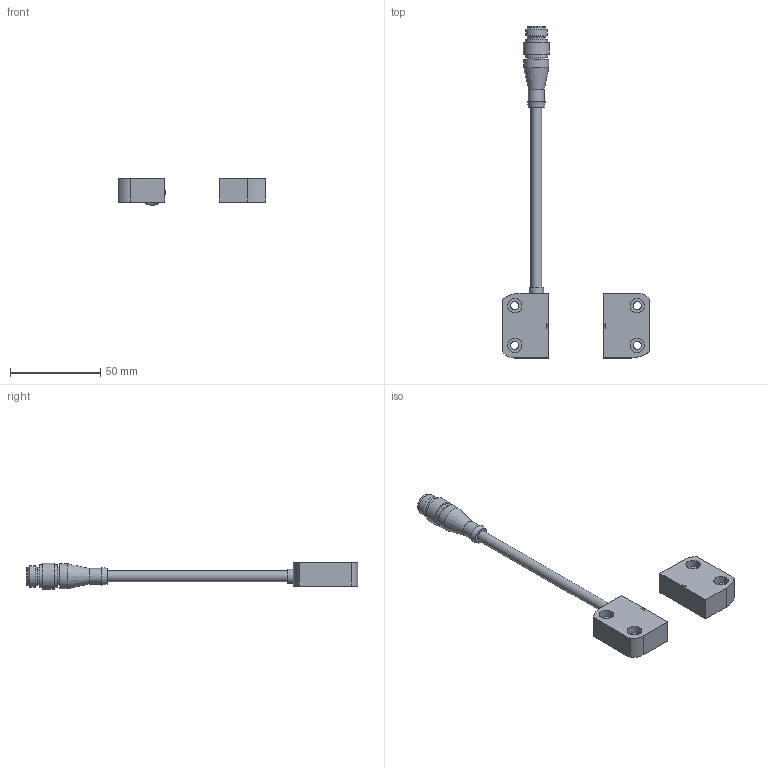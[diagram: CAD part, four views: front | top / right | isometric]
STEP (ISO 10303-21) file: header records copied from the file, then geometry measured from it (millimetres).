
FILE_DESCRIPTION( ( 'STEP AP203' ), '1' );
FILE_NAME( 'p:/temp/worker_14/temp/exporttempdir_1100_527_dde1I/format_2/MN207S.stp', '2021-05-17T06:58:02', ( 'License CC BY-ND 4.0' ), ( 'CADENAS' ), ' ', 'PARTsolutions', ' ' );
FILE_SCHEMA( ( 'CONFIG_CONTROL_DESIGN' ) );
Length unit declared in the file: millimetre
Products named in the file (3): MN207S; _MN200S_p1_P1; _MN200S_p2_P2
Assembly tree (2 placements, depth 2):
  MN207S
    _MN200S_p1_P1
    _MN200S_p2_P2
Bounding box: 82 x 184.4 x 14.85 mm (x, y, z)
Volume: 29875.1 mm3; surface area: 11805.7 mm2
Topology: 2 solids, 2 shells, 66 faces, 132 edges, 86 vertices
Faces by surface type: plane 37, cylinder 25, cone 4
Full cylindrical faces by diameter (mm): 4.5 x4, 6 x1, 8 x5, 8.3 x1, 8.8 x1, 10 x3, 12 x1, 12.6 x2, 14 x1, 14.5 x1
Entity records: 1716 total; most frequent: DIRECTION 298, CARTESIAN_POINT 261, ORIENTED_EDGE 214, AXIS2_PLACEMENT_3D 122, EDGE_LOOP 114, EDGE_CURVE 107, FACE_OUTER_BOUND 86, VERTEX_POINT 85
